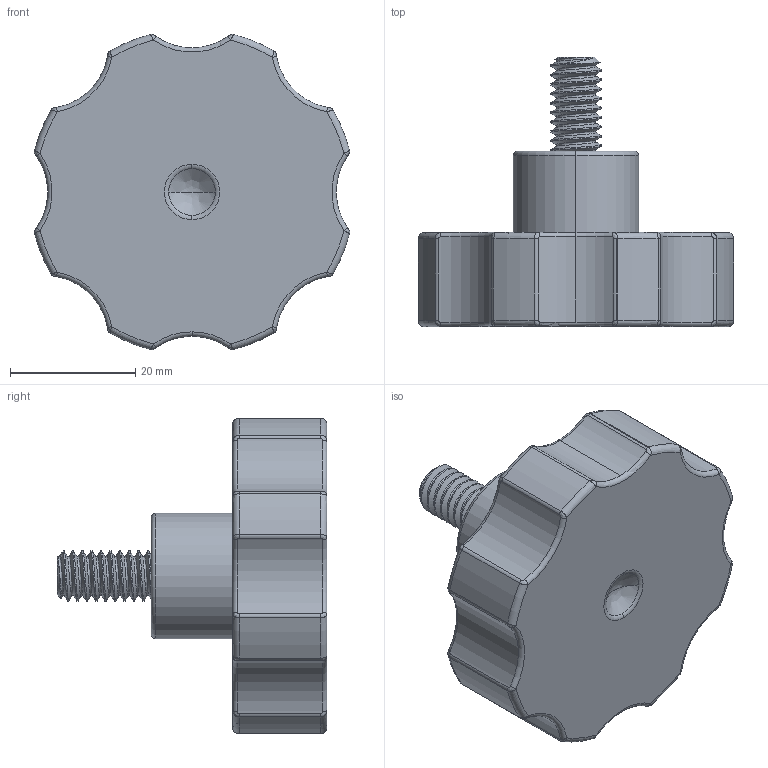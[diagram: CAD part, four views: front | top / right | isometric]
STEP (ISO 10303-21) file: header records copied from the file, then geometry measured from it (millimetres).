
FILE_DESCRIPTION (( 'STEP AP214' ), '1' );
FILE_NAME ('D50M8H15.STEP', '2020-06-30T10:22:14', ( '' ), ( '' ), 'SwSTEP 2.0', 'SolidWorks 2018', '' );
FILE_SCHEMA (( 'AUTOMOTIVE_DESIGN' ));
Length unit declared in the file: millimetre
Products named in the file (3): D50M8H15; Part 2; Part 1
Assembly tree (2 placements, depth 2):
  D50M8H15
    Part 1
    Part 2
Bounding box: 50.33 x 43 x 50.33 mm (x, y, z)
Volume: 20295.5 mm3; surface area: 11899.9 mm2
Topology: 2 solids, 2 shells, 183 faces, 440 edges, 267 vertices
Faces by surface type: cylinder 87, torus 42, bspline 40, plane 11, cone 3
Entity records: 10922 total; most frequent: CARTESIAN_POINT 6948, ORIENTED_EDGE 876, DIRECTION 776, EDGE_CURVE 438, AXIS2_PLACEMENT_3D 342, VERTEX_POINT 267, CIRCLE 194, EDGE_LOOP 191
